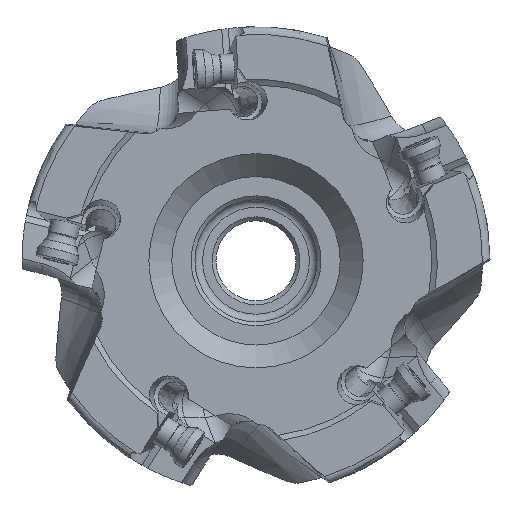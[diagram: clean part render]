
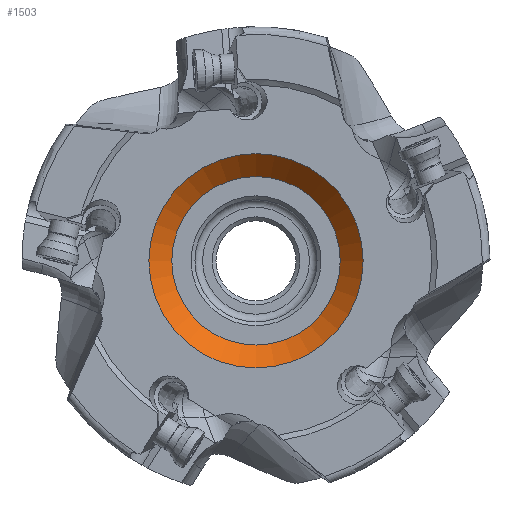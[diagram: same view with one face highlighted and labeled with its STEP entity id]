
A CAD part, left-side view. The second image highlights one B-rep face of the part: STEP entity #1503.
In plain terms, the highlighted conical face has half-angle 45 degrees and reference radius 14.036 mm.
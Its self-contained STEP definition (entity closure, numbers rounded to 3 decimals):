
#1023=CONICAL_SURFACE('',#7477,14.036,45.);
#1254=FACE_BOUND('',#2460,.T.);
#1255=FACE_BOUND('',#2461,.T.);
#1503=ADVANCED_FACE('',(#1254,#1255),#1023,.F.);
#2460=EDGE_LOOP('',(#3310));
#2461=EDGE_LOOP('',(#3311));
#3310=ORIENTED_EDGE('',*,*,#5997,.T.);
#3311=ORIENTED_EDGE('',*,*,#6027,.F.);
#5221=VERTEX_POINT('',#11901);
#5247=VERTEX_POINT('',#12035);
#5997=EDGE_CURVE('',#5221,#5221,#6891,.T.);
#6027=EDGE_CURVE('',#5247,#5247,#6901,.T.);
#6891=CIRCLE('',#7456,11.036);
#6901=CIRCLE('',#7476,14.036);
#7456=AXIS2_PLACEMENT_3D('',#11900,#8712,#8713);
#7476=AXIS2_PLACEMENT_3D('',#12034,#8760,#8761);
#7477=AXIS2_PLACEMENT_3D('',#12036,#8762,#8763);
#8712=DIRECTION('',(1.,0.,0.));
#8713=DIRECTION('',(0.,0.,-1.));
#8760=DIRECTION('',(1.,0.,0.));
#8761=DIRECTION('',(0.,0.,-1.));
#8762=DIRECTION('',(-1.,0.,0.));
#8763=DIRECTION('',(0.,0.,1.));
#11900=CARTESIAN_POINT('',(4.5,0.,0.));
#11901=CARTESIAN_POINT('',(4.5,0.,-11.036));
#12034=CARTESIAN_POINT('',(1.5,0.,0.));
#12035=CARTESIAN_POINT('',(1.5,0.,-14.036));
#12036=CARTESIAN_POINT('',(1.5,0.,0.));
